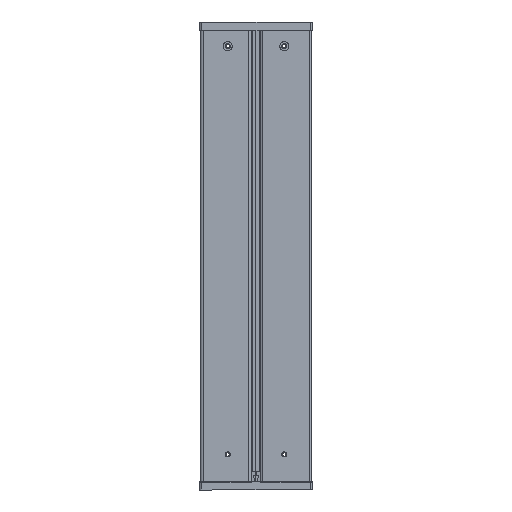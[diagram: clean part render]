
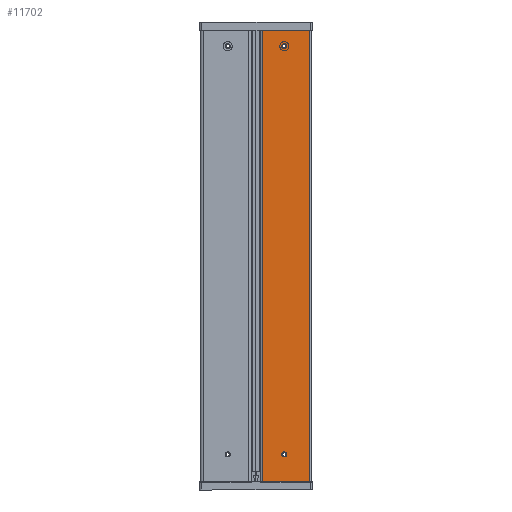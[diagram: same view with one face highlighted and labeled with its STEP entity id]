
A CAD part, left-side view. The second image highlights one B-rep face of the part: STEP entity #11702.
In plain terms, the highlighted planar face has unit normal (-1, 0, 0).
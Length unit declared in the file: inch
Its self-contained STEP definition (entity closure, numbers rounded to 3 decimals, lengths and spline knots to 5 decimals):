
#621 = VERTEX_POINT ( 'NONE', #18595 ) ;
#718 = CARTESIAN_POINT ( 'NONE',  ( -8.46, 0.08, 14. ) ) ;
#988 = CARTESIAN_POINT ( 'NONE',  ( -8.46, 1.52, 14. ) ) ;
#2239 = VERTEX_POINT ( 'NONE', #988 ) ;
#3105 = LINE ( 'NONE', #69704, #7246 ) ;
#3177 = CARTESIAN_POINT ( 'NONE',  ( -8.46, 0.855, 13.5 ) ) ;
#3272 = EDGE_LOOP ( 'NONE', ( #72224, #66286 ) ) ;
#4018 = DIRECTION ( 'NONE',  ( 1., 0., 0. ) ) ;
#4842 = CARTESIAN_POINT ( 'NONE',  ( -8.46, 0.08, 14. ) ) ;
#5317 = ORIENTED_EDGE ( 'NONE', *, *, #11621, .T. ) ;
#7246 = VECTOR ( 'NONE', #14046, 39.37008 ) ;
#11621 = EDGE_CURVE ( 'NONE', #621, #55196, #22736, .T. ) ;
#11702 = ADVANCED_FACE ( 'Face2', ( #13744, #63601, #36034 ), #35659, .T. ) ;
#12198 = EDGE_CURVE ( 'Edge14', #57107, #40347, #38386, .T. ) ;
#12447 = VECTOR ( 'NONE', #38888, 39.37008 ) ;
#13494 = LINE ( 'NONE', #68810, #67816 ) ;
#13744 = FACE_BOUND ( 'NONE', #62427, .T. ) ;
#14046 = DIRECTION ( 'NONE',  ( 0., 1., 0. ) ) ;
#14659 = ORIENTED_EDGE ( 'NONE', *, *, #12198, .F. ) ;
#16534 = EDGE_CURVE ( 'Edge15', #40347, #51982, #16601, .T. ) ;
#16601 = LINE ( 'NONE', #26467, #12447 ) ;
#17747 = VECTOR ( 'NONE', #21544, 39.37008 ) ;
#18595 = CARTESIAN_POINT ( 'NONE',  ( -8.46, 0.855, 13.422 ) ) ;
#19327 = EDGE_CURVE ( 'NONE', #2239, #51982, #13494, .T. ) ;
#19389 = ORIENTED_EDGE ( 'NONE', *, *, #60836, .T. ) ;
#20142 = CARTESIAN_POINT ( 'NONE',  ( -8.46, 0.855, 0.953 ) ) ;
#20640 = CIRCLE ( 'NONE', #28761, 0.078 ) ;
#21544 = DIRECTION ( 'NONE',  ( 0., 0., -1. ) ) ;
#22736 = CIRCLE ( 'NONE', #50821, 0.078 ) ;
#25435 = DIRECTION ( 'NONE',  ( -1., 0., 0. ) ) ;
#26348 = AXIS2_PLACEMENT_3D ( 'NONE', #58454, #25435, #47780 ) ;
#26467 = CARTESIAN_POINT ( 'NONE',  ( -8.46, 0., 0. ) ) ;
#27506 = ORIENTED_EDGE ( 'NONE', *, *, #19327, .T. ) ;
#28038 = DIRECTION ( 'NONE',  ( 0., 0., -1. ) ) ;
#28761 = AXIS2_PLACEMENT_3D ( 'NONE', #44520, #39003, #28038 ) ;
#29801 = AXIS2_PLACEMENT_3D ( 'NONE', #32809, #4018, #43838 ) ;
#31947 = DIRECTION ( 'NONE',  ( 1., 0., 0. ) ) ;
#32809 = CARTESIAN_POINT ( 'NONE',  ( -8.46, 0.855, 0.875 ) ) ;
#34195 = EDGE_CURVE ( 'NONE', #39242, #45663, #68446, .T. ) ;
#35055 = DIRECTION ( 'NONE',  ( 0., 0., -1. ) ) ;
#35659 = PLANE ( 'NONE',  #26348 ) ;
#36028 = DIRECTION ( 'NONE',  ( 0., 0., -1. ) ) ;
#36034 = FACE_OUTER_BOUND ( 'NONE', #68095, .T. ) ;
#36093 = EDGE_CURVE ( 'NONE', #55196, #621, #46293, .T. ) ;
#37481 = CARTESIAN_POINT ( 'NONE',  ( -8.46, 0.855, 13.5 ) ) ;
#38386 = LINE ( 'NONE', #718, #17747 ) ;
#38888 = DIRECTION ( 'NONE',  ( 0., 1., 0. ) ) ;
#39003 = DIRECTION ( 'NONE',  ( 1., 0., 0. ) ) ;
#39242 = VERTEX_POINT ( 'NONE', #64528 ) ;
#40347 = VERTEX_POINT ( 'NONE', #52855 ) ;
#43838 = DIRECTION ( 'NONE',  ( 0., 0., -1. ) ) ;
#44520 = CARTESIAN_POINT ( 'NONE',  ( -8.46, 0.855, 0.875 ) ) ;
#45663 = VERTEX_POINT ( 'NONE', #20142 ) ;
#46293 = CIRCLE ( 'NONE', #70875, 0.078 ) ;
#47780 = DIRECTION ( 'NONE',  ( 0., 0., 1. ) ) ;
#50821 = AXIS2_PLACEMENT_3D ( 'NONE', #3177, #65031, #52557 ) ;
#51982 = VERTEX_POINT ( 'NONE', #65382 ) ;
#52557 = DIRECTION ( 'NONE',  ( 0., 0., -1. ) ) ;
#52855 = CARTESIAN_POINT ( 'NONE',  ( -8.46, 0.08, 0. ) ) ;
#55196 = VERTEX_POINT ( 'NONE', #64364 ) ;
#57107 = VERTEX_POINT ( 'NONE', #4842 ) ;
#58454 = CARTESIAN_POINT ( 'NONE',  ( -8.46, 0., 14. ) ) ;
#60836 = EDGE_CURVE ( 'NONE', #57107, #2239, #3105, .T. ) ;
#62325 = ORIENTED_EDGE ( 'NONE', *, *, #36093, .T. ) ;
#62427 = EDGE_LOOP ( 'NONE', ( #5317, #62325 ) ) ;
#63601 = FACE_BOUND ( 'NONE', #3272, .T. ) ;
#64364 = CARTESIAN_POINT ( 'NONE',  ( -8.46, 0.855, 13.578 ) ) ;
#64528 = CARTESIAN_POINT ( 'NONE',  ( -8.46, 0.855, 0.797 ) ) ;
#65031 = DIRECTION ( 'NONE',  ( 1., 0., 0. ) ) ;
#65382 = CARTESIAN_POINT ( 'NONE',  ( -8.46, 1.52, 0. ) ) ;
#66286 = ORIENTED_EDGE ( 'NONE', *, *, #72359, .T. ) ;
#67816 = VECTOR ( 'NONE', #35055, 39.37008 ) ;
#68095 = EDGE_LOOP ( 'NONE', ( #68272, #14659, #19389, #27506 ) ) ;
#68272 = ORIENTED_EDGE ( 'NONE', *, *, #16534, .F. ) ;
#68446 = CIRCLE ( 'NONE', #29801, 0.078 ) ;
#68810 = CARTESIAN_POINT ( 'NONE',  ( -8.46, 1.52, 14. ) ) ;
#69704 = CARTESIAN_POINT ( 'NONE',  ( -8.46, 0., 14. ) ) ;
#70875 = AXIS2_PLACEMENT_3D ( 'NONE', #37481, #31947, #36028 ) ;
#72224 = ORIENTED_EDGE ( 'NONE', *, *, #34195, .T. ) ;
#72359 = EDGE_CURVE ( 'NONE', #45663, #39242, #20640, .T. ) ;
